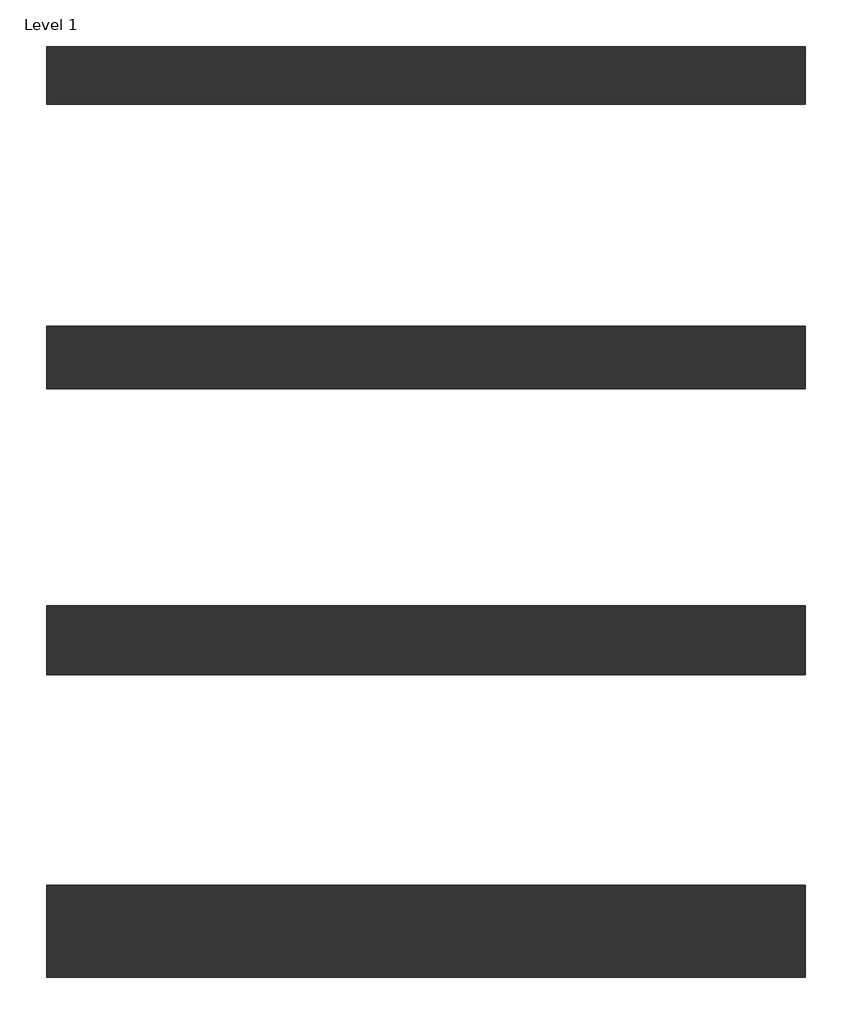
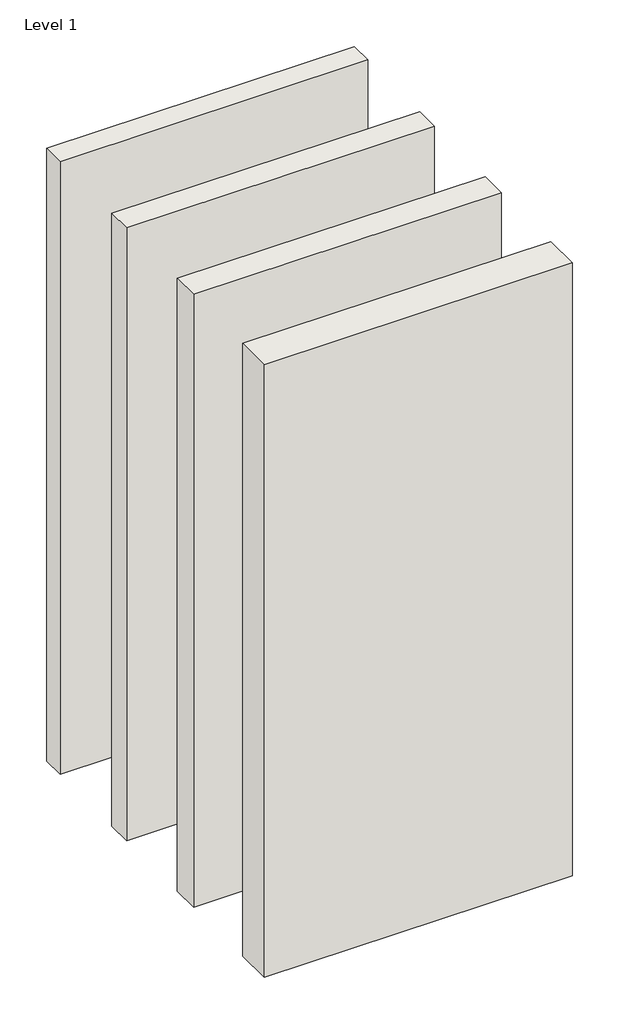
# One storey: 4 walls.
"""IFC4 building model written with IfcOpenShell, lengths in millimetres."""

from ifc_helpers import new_model, si_unit, origin, origin_with_axes, place, context, project, spatial, polyline, outline, extrude, element, save

model = new_model("IFC4")

# Units and contexts
model_context = context("Model", 3, world=origin())
ifc_project = project(units=[si_unit("LENGTHUNIT", "METRE", prefix="MILLI")], contexts=[model_context])

# Site, building, storey
site = spatial("IfcSite", under=ifc_project)
building = spatial("IfcBuilding", under=site)
storey = spatial("IfcBuildingStorey", under=building, Name="Level 1", Elevation=0.0)

# Walls
placement = place(None, origin())
element("IfcWall", 1, ObjectType="Interior-Steel Frame-Resilient Mount-CSR1165-144mm", at=placement, inside=storey, context=model_context, shape_type="SweptSolid", body=[
    extrude(outline(polyline([(-701.0944197, -164.4917963), (1198.9055803, -164.4917963), (1198.9055803, -308.4917963), (-701.0944197, -308.4917963), (-701.0944197, -164.4917963)])), origin_with_axes(), (0.0, 0.0, 1.0), 4000.0),
])
element("IfcWall", 2, ObjectType="Interior-Steel Frame-Resilient Mount-CSR1165-156mm", at=placement, inside=storey, context=model_context, shape_type="SweptSolid", body=[
    extrude(outline(polyline([(-701.0944197, -864.4917963), (1198.9055803, -864.4917963), (1198.9055803, -1020.4917963), (-701.0944197, -1020.4917963), (-701.0944197, -864.4917963)])), origin_with_axes(), (0.0, 0.0, 1.0), 4000.0),
])
element("IfcWall", 3, ObjectType="Interior-Steel Frame-Resilient Mount-CSR1165-172mm", at=placement, inside=storey, context=model_context, shape_type="SweptSolid", body=[
    extrude(outline(polyline([(-701.0944197, -1564.4917963), (1198.9055803, -1564.4917963), (1198.9055803, -1736.4917963), (-701.0944197, -1736.4917963), (-701.0944197, -1564.4917963)])), origin_with_axes(), (0.0, 0.0, 1.0), 4000.0),
])
element("IfcWall", 4, ObjectType="Interior-Steel Frame-Resilient Mount-CSR1165-230mm", at=placement, inside=storey, context=model_context, shape_type="SweptSolid", body=[
    extrude(outline(polyline([(-701.0944197, -2264.4917963), (1198.9055803, -2264.4917963), (1198.9055803, -2494.4917963), (-701.0944197, -2494.4917963), (-701.0944197, -2264.4917963)])), origin_with_axes(), (0.0, 0.0, 1.0), 4000.0),
])

save(model, "model.ifc")
